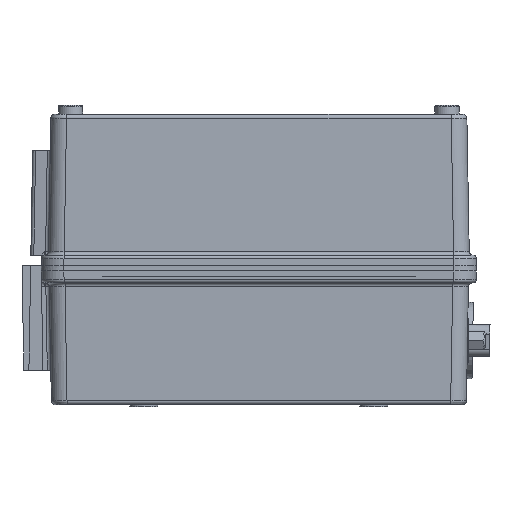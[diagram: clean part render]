
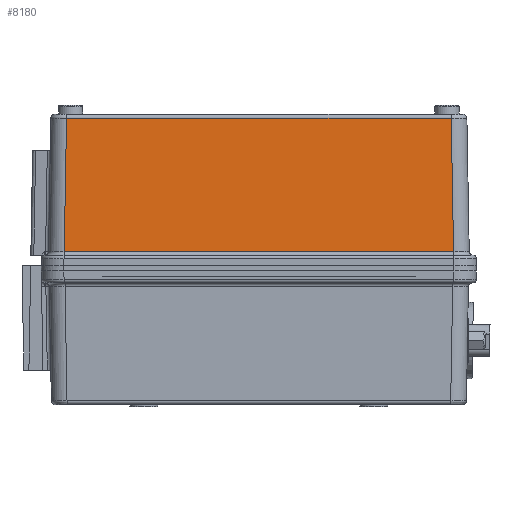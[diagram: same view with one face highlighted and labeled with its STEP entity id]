
A CAD part, left-side view. The second image highlights one B-rep face of the part: STEP entity #8180.
In plain terms, the highlighted planar face has unit normal (-1, 0, 0.018).
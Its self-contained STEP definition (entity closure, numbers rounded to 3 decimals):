
#8180=ADVANCED_FACE('',(#29397),#29399,.T.);
#29397=FACE_BOUND('',#29398,.T.);
#29398=EDGE_LOOP('',(#44931,#44932,#44933,#44934));
#29399=PLANE('',#29400);
#29400=AXIS2_PLACEMENT_3D('',#29401,#29402,#29403);
#29401=CARTESIAN_POINT('',(-97.9,-47.9,-31.));
#29402=DIRECTION('',(-1.,0.,0.017));
#29403=DIRECTION('',(0.,-1.,0.));
#44931=ORIENTED_EDGE('',*,*,#54432,.F.);
#44932=ORIENTED_EDGE('',*,*,#54379,.F.);
#44933=ORIENTED_EDGE('',*,*,#54402,.F.);
#44934=ORIENTED_EDGE('',*,*,#54377,.F.);
#54377=EDGE_CURVE('',#61224,#61226,#61227,.T.);
#54379=EDGE_CURVE('',#61229,#61230,#61231,.T.);
#54402=EDGE_CURVE('',#61226,#61229,#61270,.T.);
#54432=EDGE_CURVE('',#61230,#61224,#61319,.T.);
#61224=VERTEX_POINT('',#74885);
#61226=VERTEX_POINT('',#74903);
#61227=LINE('',#74904,#74905);
#61229=VERTEX_POINT('',#74926);
#61230=VERTEX_POINT('',#74927);
#61231=LINE('',#74928,#74929);
#61270=LINE('',#75109,#75110);
#61319=LINE('',#75272,#75273);
#74885=CARTESIAN_POINT('',(-97.883,68.384,-30.017));
#74903=CARTESIAN_POINT('',(-97.214,67.714,8.321));
#74904=CARTESIAN_POINT('',(-97.883,68.384,-30.017));
#74905=VECTOR('',#74906,1.);
#74906=DIRECTION('',(0.017,-0.017,1.));
#74926=CARTESIAN_POINT('',(-97.214,-42.714,8.321));
#74927=CARTESIAN_POINT('',(-97.883,-43.384,-30.017));
#74928=CARTESIAN_POINT('',(-97.214,-42.714,8.321));
#74929=VECTOR('',#74930,1.);
#74930=DIRECTION('',(-0.017,-0.017,-1.));
#75109=CARTESIAN_POINT('',(-97.214,67.714,8.321));
#75110=VECTOR('',#75111,1.);
#75111=DIRECTION('',(0.,-1.,0.));
#75272=CARTESIAN_POINT('',(-97.883,-43.384,-30.017));
#75273=VECTOR('',#75274,1.);
#75274=DIRECTION('',(0.,1.,0.));
